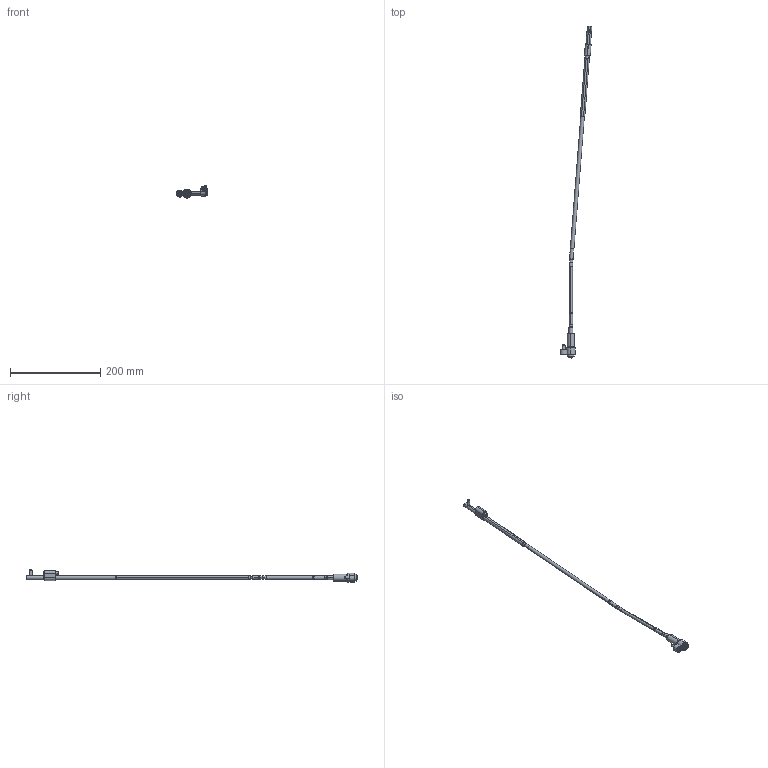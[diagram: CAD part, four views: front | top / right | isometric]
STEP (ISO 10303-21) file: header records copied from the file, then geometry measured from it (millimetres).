
FILE_DESCRIPTION (( 'STEP AP214' ), '1' );
FILE_NAME ('WL080100L-INJ 4,5°.STEP', '2021-03-19T15:26:41', ( '' ), ( '' ), 'SwSTEP 2.0', 'SolidWorks 2019', '' );
FILE_SCHEMA (( 'AUTOMOTIVE_DESIGN' ));
Length unit declared in the file: millimetre
Products named in the file (17): WL080100-E; Web-WL08-A3; 1DIN912545_DIN 912 M5 x 50 --- 50C; Web-WP08-1; WL080100L-INJ 4,5°; WL080100-C; 9DR2206-TOR; Web-WL08-A1; WL080100-B1_WL0800FF-1; Web-WL08-A2; 3IMAN4X2-150_con sello; Web-WL08-F00.SLDPRT; Web-WL08-F01; WL080100-D; Web-WL08XX-A7_OFF-WL080100-4,5; WL080100-B_WL0800FF; 1DIN912616_DIN 912 M6 x 16 --- 16C
Assembly tree (16 placements, depth 3):
  WL080100L-INJ 4,5°
    Web-WP08-1
    Web-WL08XX-A7_OFF-WL080100-4,5
    Web-WL08-A3
    Web-WL08-A2
    Web-WL08-A1
    WL080100-D
    WL080100-C
    WL080100-B_WL0800FF
      WL080100-B1_WL0800FF-1
      3IMAN4X2-150_con sello
    WL080100-E
    9DR2206-TOR
    Web-WL08-F00.SLDPRT
      Web-WL08-F01
      1DIN912545_DIN 912 M5 x 50 --- 50C
      1DIN912616_DIN 912 M6 x 16 --- 16C
Bounding box: 70.39 x 735.74 x 26.9 mm (x, y, z)
Volume: 57313.6 mm3; surface area: 33636.1 mm2
Topology: 15 solids, 15 shells, 424 faces, 888 edges, 516 vertices
Faces by surface type: plane 132, cylinder 128, cone 116, torus 48
Entity records: 13492 total; most frequent: DIRECTION 2218, CARTESIAN_POINT 2045, ORIENTED_EDGE 1756, AXIS2_PLACEMENT_3D 921, EDGE_CURVE 878, VERTEX_POINT 516, CIRCLE 476, EDGE_LOOP 468
